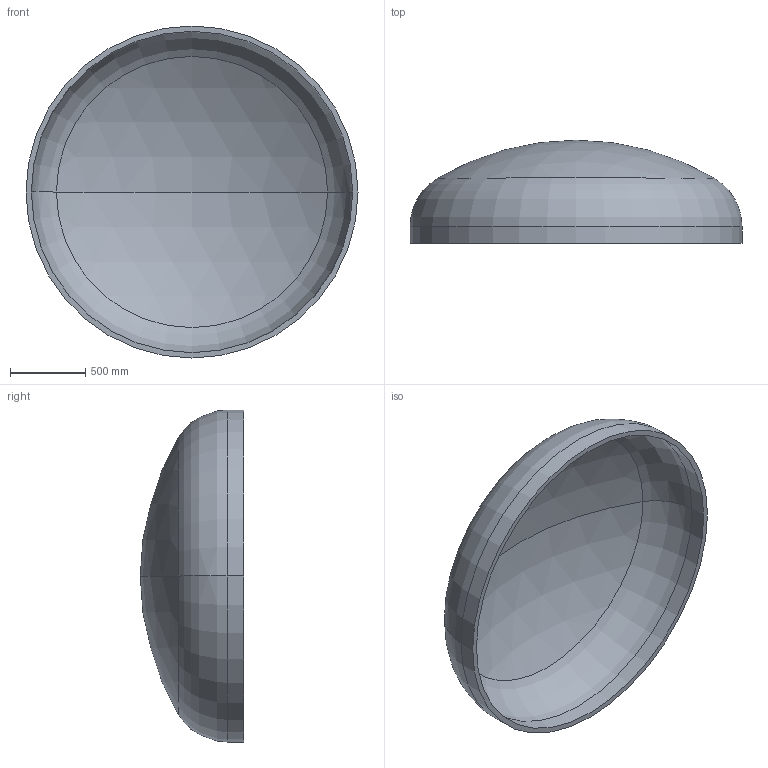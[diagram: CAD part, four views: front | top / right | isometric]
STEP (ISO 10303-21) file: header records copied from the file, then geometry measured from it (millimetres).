
FILE_DESCRIPTION (( 'STEP AP203' ), '1' );
FILE_NAME ('DIN 28013 Korbbogenform_-_Boden DIN 28013 - 2200 x 110 - I - s=35.step', '2016-07-01T14:32:24', ( '' ), ( '' ), 'SwSTEP 2.0', 'SolidWorks 2013', '' );
FILE_SCHEMA (( 'CONFIG_CONTROL_DESIGN' ));
Length unit declared in the file: millimetre
Products named in the file (1): DIN 28013 Korbbogenform_-_Boden DIN 28013 - 2200 x 110 - I - s=35
Bounding box: 2200 x 684.03 x 2200 mm (x, y, z)
Volume: 206750531 mm3; surface area: 12054931.9 mm2
Topology: 1 solids, 1 shells, 13 faces, 24 edges, 14 vertices
Faces by surface type: torus 4, cylinder 4, sphere 4, plane 1
Entity records: 407 total; most frequent: DIRECTION 72, CARTESIAN_POINT 52, ORIENTED_EDGE 48, AXIS2_PLACEMENT_3D 34, EDGE_CURVE 24, CIRCLE 20, VERTEX_POINT 14, EDGE_LOOP 14
